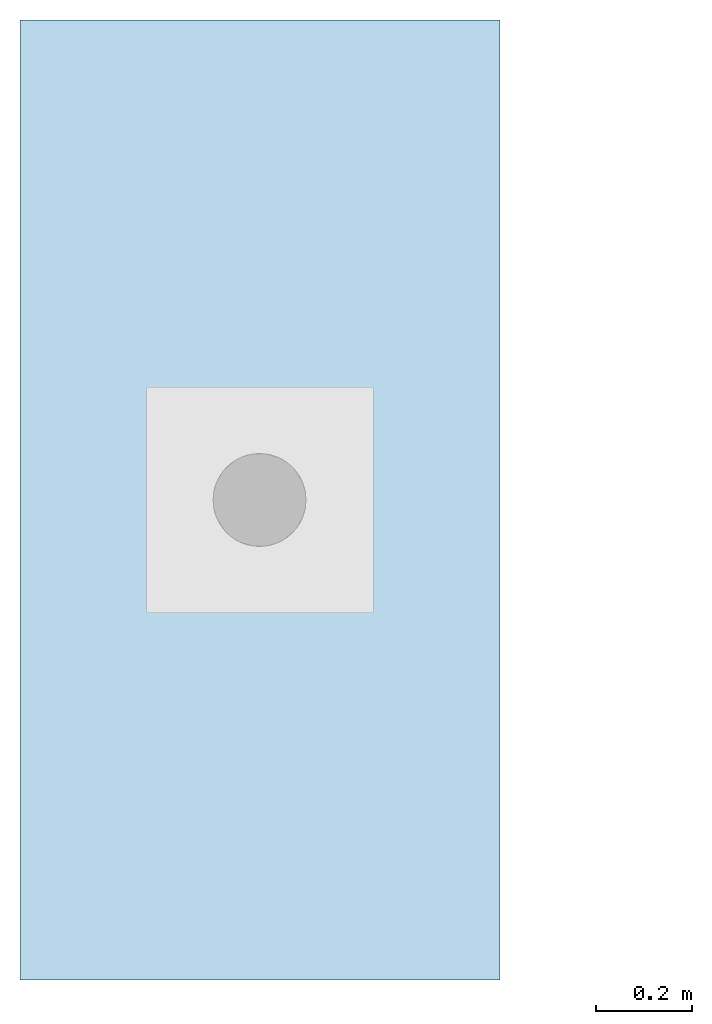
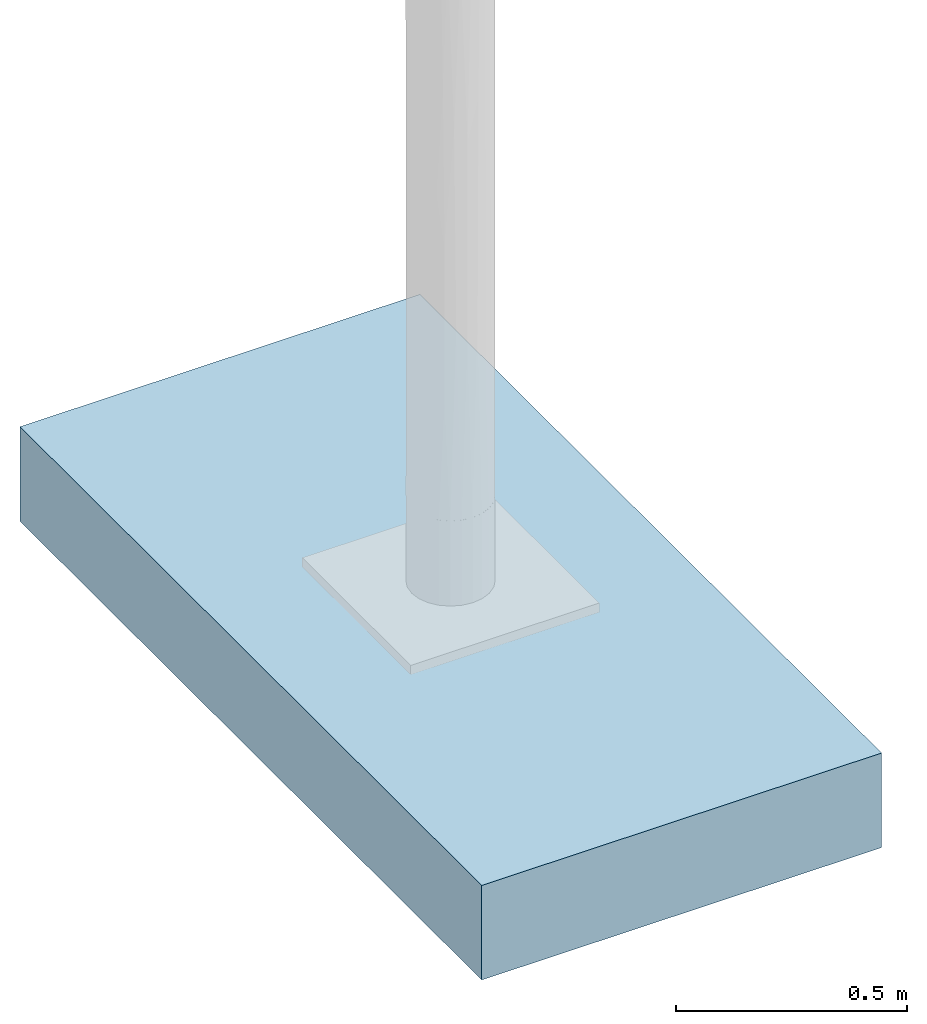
# One storey, incomplete: 1 slab.
"""IFC4 building model written with IfcOpenShell, lengths in metres."""

from ifc_helpers import new_model, entity, si_unit, converted_unit, direction, frame, frame_2d, origin, place, context, subcontext, project, spatial, rectangle, extrude, type_object, element, save


model = new_model("IFC4")

# Units and contexts
model_context = context("Model", 3, precision=1e-05, world=origin(), true_north=direction((6.123031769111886e-17, 1.0)))
body_context = subcontext(model_context, "Body", "Model", "MODEL_VIEW")
ifc_project = project(units=[si_unit("LENGTHUNIT", "METRE"), converted_unit("PLANEANGLEUNIT", "DEGREE", entity("IfcPlaneAngleMeasure", 0.017453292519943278), si_unit("PLANEANGLEUNIT", "RADIAN"), dimensions=[0, 0, 0, 0, 0, 0, 0]), si_unit("AREAUNIT", "SQUARE_METRE")], contexts=[model_context])

# Site, building, storey
site_placement = place(None, origin())
site = spatial("IfcSite", under=ifc_project, at=site_placement, Name="Default", CompositionType="ELEMENT")
building_placement = place(site_placement, origin())
building = spatial("IfcBuilding", under=site, at=building_placement, CompositionType="ELEMENT")
storey_placement = place(building_placement, origin())
storey = spatial("IfcBuildingStorey", under=building, at=storey_placement, Name="Ebene 0", CompositionType="ELEMENT", Elevation=0.0)

# Slab
slab_type = type_object("IfcSlabType", Name="DB_ZIM_Fundament:DB_ZIM_Fundament", PredefinedType="BASESLAB")
slab_placement = place(storey_placement, origin())
element("IfcSlab", 1, at=slab_placement, inside=storey, type_object=slab_type, Name="DB_ZIM_Fundament:DB_ZIM_Fundament", ObjectType="DB_ZIM_Fundament:DB_ZIM_Fundament", PredefinedType="BASESLAB", context=body_context, shape_type="SweptSolid", body=[
    extrude(rectangle(XDim=0.9999999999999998, YDim=2.0, at=frame_2d((0.09999999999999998, 1.1102230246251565e-16), x_axis=(1.0, 0.0))), frame((-0.0990499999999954, 0.0, -0.5001999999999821)), (0.0, 0.0, 1.0), 0.25),
])

save(model, "model.ifc")
